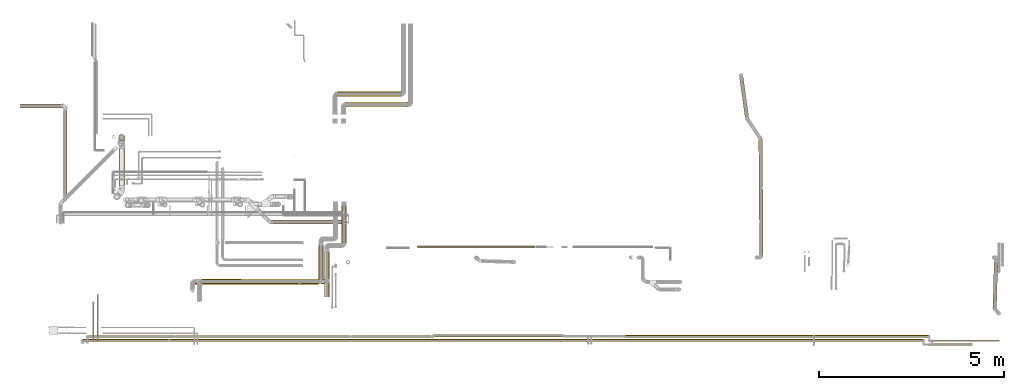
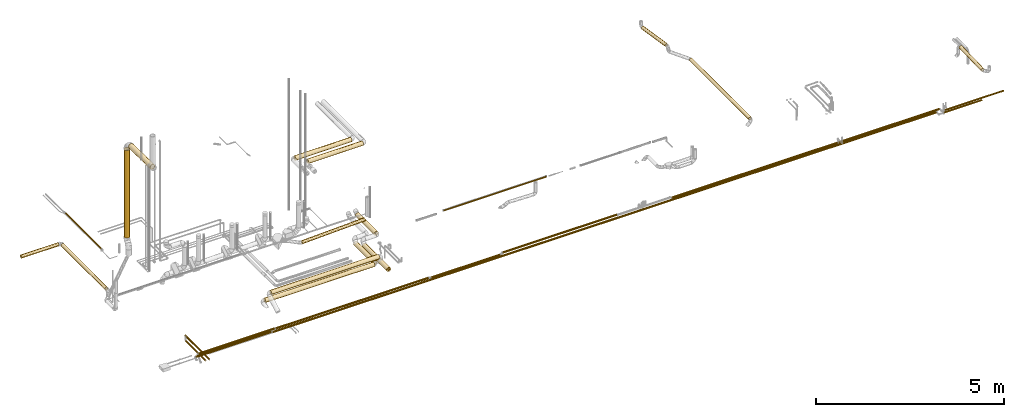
# One storey, part 1 of 156: 29 coverings.
"""IFC2X3 building model written with IfcOpenShell, lengths in millimetres."""

from ifc_helpers import new_model, entity, si_unit, converted_unit, derived_unit, direction, frame, origin_with_axes, origin_2d_with_axis, place, context, subcontext, project, spatial, hollow_circle, extrude, source, transform, mapped, element, save


model = new_model("IFC2X3")

# Units and contexts
model_context = context("Model", 3, precision=0.01, world=frame((0.0, 4.29681676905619e-09, 0.0)), true_north=direction((4.01073788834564e-13, 1.0)))
plan_context = context("Plan", 3, precision=0.01, world=frame((0.0, 4.29681676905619e-09, 0.0)), true_north=direction((4.01073788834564e-13, 1.0)))
body_context = subcontext(model_context, "Body", "Model", "MODEL_VIEW")
ifc_project = project(units=[converted_unit("PLANEANGLEUNIT", "DEGREE", entity("IfcPositiveLengthMeasure", 0.0174532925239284), si_unit("PLANEANGLEUNIT", "RADIAN"), dimensions=[0, 0, 0, 0, 0, 0, 0]), si_unit("AREAUNIT", "SQUARE_METRE"), si_unit("LENGTHUNIT", "METRE", prefix="MILLI"), si_unit("MASSUNIT", "GRAM", prefix="KILO"), si_unit("POWERUNIT", "WATT"), si_unit("PRESSUREUNIT", "PASCAL", prefix="KILO"), si_unit("FORCEUNIT", "NEWTON", prefix="KILO"), si_unit("ELECTRICVOLTAGEUNIT", "VOLT"), si_unit("ELECTRICCURRENTUNIT", "AMPERE"), si_unit("THERMODYNAMICTEMPERATUREUNIT", "DEGREE_CELSIUS"), si_unit("TIMEUNIT", "SECOND"), si_unit("VOLUMEUNIT", "CUBIC_METRE"), derived_unit("LINEARVELOCITYUNIT", [(si_unit("LENGTHUNIT", "METRE"), 1), (si_unit("TIMEUNIT", "SECOND"), -1)]), derived_unit("VOLUMETRICFLOWRATEUNIT", [(si_unit("VOLUMEUNIT", "CUBIC_METRE"), 1), (si_unit("TIMEUNIT", "SECOND"), -1)]), derived_unit("THERMALTRANSMITTANCEUNIT", [(si_unit("POWERUNIT", "WATT"), 1), (si_unit("THERMODYNAMICTEMPERATUREUNIT", "KELVIN"), -1), (si_unit("AREAUNIT", "SQUARE_METRE"), -1)]), derived_unit("SOUNDPRESSUREUNIT", [(si_unit("PRESSUREUNIT", "PASCAL"), 1)])], contexts=[model_context, plan_context])

# Site, building, storey
site_placement = place(None, frame((0.0, -4.29681676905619e-09, 0.0), z_axis=(0.0, 0.0, 1.0), x_axis=(1.0, 0.0, 0.0)))
site = spatial("IfcSite", under=ifc_project, at=site_placement, CompositionType="ELEMENT")
building_placement = place(site_placement, frame((0.0, 4.29681676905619e-09, 0.0), z_axis=(0.0, 0.0, 1.0), x_axis=(1.0, 0.0, 0.0)))
building = spatial("IfcBuilding", under=site, at=building_placement, Name="mc-building", CompositionType="ELEMENT")
storey_placement = place(building_placement, frame((0.0, 0.0, 205200.0), z_axis=(0.0, 0.0, 1.0), x_axis=(1.0, 0.0, 0.0)))
storey = spatial("IfcBuildingStorey", under=building, at=storey_placement, Name="Nivå D + 1,2 m", CompositionType="ELEMENT", Elevation=205200.0)

# Coverings
shared_shape_1 = source(origin_with_axes(), body_context, "Body", "SweptSolid", [
    extrude(hollow_circle(Radius=80.5, WallThickness=13.0, at=origin_2d_with_axis()), frame((0.0, 0.0, 0.0), z_axis=(1.0, 0.0, 0.0), x_axis=(0.0, 1.0, 0.0)), (0.0, 0.0, 1.0), 2845.2),
])
covering_1_placement = place(storey_placement, frame((324308.57539, 464415.93402, 4450.17718), z_axis=(1.0, 0.0, 0.0), x_axis=(0.0, 0.0, 1.0)))
element("IfcCovering", 1, at=covering_1_placement, inside=storey, Name="BI17T - Cellegummi 13 mm SPV fett", PredefinedType="INSULATION", context=body_context, shape_type="MappedRepresentation", body=[
    mapped(shared_shape_1, transform((0.0, 0.0, 0.0), scale=1.0)),
])
shared_shape_2 = source(origin_with_axes(), body_context, "Body", "SweptSolid", [
    extrude(hollow_circle(Radius=80.5, WallThickness=13.0, at=origin_2d_with_axis()), frame((0.0, 0.0, 0.0), z_axis=(1.0, 0.0, 0.0), x_axis=(0.0, 1.0, 0.0)), (0.0, 0.0, 1.0), 1140.2),
])
covering_2_placement = place(storey_placement, frame((324308.8595, 464192.9297, 7520.86944000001), z_axis=(0.62225385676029, -0.0130449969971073, -0.782706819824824), x_axis=(-9.78786566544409e-08, -0.999861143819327, 0.016664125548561)))
element("IfcCovering", 2, at=covering_2_placement, inside=storey, Name="BI17T - Cellegummi 13 mm SPV fett", PredefinedType="INSULATION", context=body_context, shape_type="MappedRepresentation", body=[
    mapped(shared_shape_2, transform((0.0, 0.0, 0.0), scale=1.0)),
])
shared_shape_3 = source(origin_with_axes(), body_context, "Body", "SweptSolid", [
    extrude(hollow_circle(Radius=67.5, WallThickness=35.0, at=origin_2d_with_axis()), frame((0.0, 0.0, 0.0), z_axis=(1.0, 0.0, 0.0), x_axis=(0.0, 1.0, 0.0)), (0.0, 0.0, 1.0), 3350.0),
])
covering_3_placement = place(storey_placement, frame((326282.42979, 460512.28647, 4048.81464), z_axis=(0.0, 0.927183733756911, 0.37460689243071), x_axis=(1.0, 0.0, 0.0)))
element("IfcCovering", 3, at=covering_3_placement, inside=storey, Name="BI10T - Cellegummi 18-32 mm kalde rør", PredefinedType="INSULATION", context=body_context, shape_type="MappedRepresentation", body=[
    mapped(shared_shape_3, transform((0.0, 0.0, 0.0), scale=1.0)),
])
shared_shape_4 = source(origin_with_axes(), body_context, "Body", "SweptSolid", [
    extrude(hollow_circle(Radius=50.5, WallThickness=13.0, at=origin_2d_with_axis()), frame((0.0, 0.0, 0.0), z_axis=(1.0, 0.0, 0.0), x_axis=(0.0, 1.0, 0.0)), (0.0, 0.0, 1.0), 1929.7),
])
covering_4_placement = place(storey_placement, frame((330284.94206, 462127.62223, 4301.94622000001), z_axis=(-0.0374270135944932, 1.0000003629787e-06, 0.999299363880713), x_axis=(-0.999299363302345, 3.40000123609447e-05, -0.0374270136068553)))
element("IfcCovering", 4, at=covering_4_placement, inside=storey, Name="BI17T - Cellegummi 13 mm SPV fett", PredefinedType="INSULATION", context=body_context, shape_type="MappedRepresentation", body=[
    mapped(shared_shape_4, transform((0.0, 0.0, 0.0), scale=1.0)),
])
shared_shape_5 = source(origin_with_axes(), body_context, "Body", "SweptSolid", [
    extrude(hollow_circle(Radius=67.5, WallThickness=35.0, at=origin_2d_with_axis()), frame((0.0, 0.0, 0.0), z_axis=(1.0, 0.0, 0.0), x_axis=(0.0, 1.0, 0.0)), (0.0, 0.0, 1.0), 1313.3),
])
covering_5_placement = place(storey_placement, frame((329857.40749, 461412.29785, 4053.20000000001), z_axis=(0.0, 0.0, 1.0), x_axis=(0.0, -1.0, 0.0)))
element("IfcCovering", 5, at=covering_5_placement, inside=storey, Name="BI10T - Cellegummi 18-32 mm kalde rør", PredefinedType="INSULATION", context=body_context, shape_type="MappedRepresentation", body=[
    mapped(shared_shape_5, transform((0.0, 0.0, 0.0), scale=1.0)),
])
shared_shape_6 = source(origin_with_axes(), body_context, "Body", "SweptSolid", [
    extrude(hollow_circle(Radius=67.5, WallThickness=35.0, at=origin_2d_with_axis()), frame((0.0, 0.0, 0.0), z_axis=(1.0, 0.0, 0.0), x_axis=(0.0, 1.0, 0.0)), (0.0, 0.0, 1.0), 1000.6),
])
covering_6_placement = place(storey_placement, frame((330320.17937, 461563.84313, 4172.95997999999), z_axis=(0.0, 0.0, 1.0), x_axis=(0.000105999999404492, 0.999999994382, 0.0)))
element("IfcCovering", 6, at=covering_6_placement, inside=storey, Name="BI10T - Cellegummi 18-32 mm kalde rør", PredefinedType="INSULATION", context=body_context, shape_type="MappedRepresentation", body=[
    mapped(shared_shape_6, transform((0.0, 0.0, 0.0), scale=1.0)),
])
shared_shape_7 = source(origin_with_axes(), body_context, "Body", "SweptSolid", [
    extrude(hollow_circle(Radius=67.5, WallThickness=35.0, at=origin_2d_with_axis()), frame((0.0, 0.0, 0.0), z_axis=(1.0, 0.0, 0.0), x_axis=(0.0, 1.0, 0.0)), (0.0, 0.0, 1.0), 1725.0),
])
covering_7_placement = place(storey_placement, frame((330145.28647, 465599.02233, 4231.88427000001), z_axis=(0.0, 1.0, 0.0), x_axis=(1.0, 0.0, 0.0)))
element("IfcCovering", 7, at=covering_7_placement, inside=storey, Name="BI10T - Cellegummi 18-32 mm kalde rør", PredefinedType="INSULATION", context=body_context, shape_type="MappedRepresentation", body=[
    mapped(shared_shape_7, transform((0.0, 0.0, 0.0), scale=1.0)),
])
shared_shape_8 = source(origin_with_axes(), body_context, "Body", "SweptSolid", [
    extrude(hollow_circle(Radius=67.5, WallThickness=35.0, at=origin_2d_with_axis()), frame((0.0, 0.0, 0.0), z_axis=(1.0, 0.0, 0.0), x_axis=(0.0, 1.0, 0.0)), (0.0, 0.0, 1.0), 1684.8),
])
covering_8_placement = place(storey_placement, frame((330370.5089, 465309.02232, 4224.21987), z_axis=(0.0, 1.0, 0.0), x_axis=(1.0, 0.0, 0.0)))
element("IfcCovering", 8, at=covering_8_placement, inside=storey, Name="BI10T - Cellegummi 18-32 mm kalde rør", PredefinedType="INSULATION", context=body_context, shape_type="MappedRepresentation", body=[
    mapped(shared_shape_8, transform((0.0, 0.0, 0.0), scale=1.0)),
])
shared_shape_9 = source(origin_with_axes(), body_context, "Body", "SweptSolid", [
    extrude(hollow_circle(Radius=50.5, WallThickness=13.0, at=origin_2d_with_axis()), frame((0.0, 0.0, 0.0), z_axis=(1.0, 0.0, 0.0), x_axis=(0.0, 1.0, 0.0)), (0.0, 0.0, 1.0), 1221.9),
])
covering_9_placement = place(storey_placement, frame((347961.27592, 461037.20708, 4362.41381999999), z_axis=(0.000314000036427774, 0.0119860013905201, 0.999928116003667), x_axis=(-0.0261559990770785, -0.999585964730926, 0.0119901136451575)))
element("IfcCovering", 9, at=covering_9_placement, inside=storey, Name="BI17T - Cellegummi 13 mm SPV fett", PredefinedType="INSULATION", context=body_context, shape_type="MappedRepresentation", body=[
    mapped(shared_shape_9, transform((0.0, 0.0, 0.0), scale=1.0)),
])
shared_shape_10 = source(origin_with_axes(), body_context, "Body", "SweptSolid", [
    extrude(hollow_circle(Radius=50.5, WallThickness=13.0, at=origin_2d_with_axis()), frame((0.0, 0.0, 0.0), z_axis=(1.0, 0.0, 0.0), x_axis=(0.0, 1.0, 0.0)), (0.0, 0.0, 1.0), 3110.5),
])
covering_10_placement = place(storey_placement, frame((341614.10206, 461243.36555, 4140.62007), z_axis=(-0.707994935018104, 0.00327099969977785, -0.706209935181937), x_axis=(-0.00728713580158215, 0.999902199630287, 0.0119368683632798)))
element("IfcCovering", 10, at=covering_10_placement, inside=storey, Name="BI17T - Cellegummi 13 mm SPV fett", PredefinedType="INSULATION", context=body_context, shape_type="MappedRepresentation", body=[
    mapped(shared_shape_10, transform((0.0, 0.0, 0.0), scale=1.0)),
])
shared_shape_11 = source(origin_with_axes(), body_context, "Body", "SweptSolid", [
    extrude(hollow_circle(Radius=50.5, WallThickness=13.0, at=origin_2d_with_axis()), frame((0.0, 0.0, 0.0), z_axis=(1.0, 0.0, 0.0), x_axis=(0.0, 1.0, 0.0)), (0.0, 0.0, 1.0), 1020.9),
])
covering_11_placement = place(storey_placement, frame((341218.01812, 465008.42896, 4382.15203999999), z_axis=(0.0, 0.0, 1.0), x_axis=(-0.139173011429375, 0.990268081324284, 0.0)))
element("IfcCovering", 11, at=covering_11_placement, inside=storey, Name="BI17T - Cellegummi 13 mm SPV fett", PredefinedType="INSULATION", context=body_context, shape_type="MappedRepresentation", body=[
    mapped(shared_shape_11, transform((0.0, 0.0, 0.0), scale=1.0)),
])
shared_shape_12 = source(origin_with_axes(), body_context, "Body", "SweptSolid", [
    extrude(hollow_circle(Radius=25.0, WallThickness=20.0, at=origin_2d_with_axis()), frame((0.0, 0.0, 0.0), z_axis=(1.0, 0.0, 0.0), x_axis=(0.0, 1.0, 0.0)), (0.0, 0.0, 1.0), 1290.7),
])
covering_12_placement = place(storey_placement, frame((323655.0, 460180.97171, 4035.79999999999), z_axis=(0.0, 0.0, 1.0), x_axis=(0.0, -1.0, 0.0)))
element("IfcCovering", 12, at=covering_12_placement, inside=storey, Name="BI10T - Cellegummi 18-32 mm kalde rør", PredefinedType="INSULATION", context=body_context, shape_type="MappedRepresentation", body=[
    mapped(shared_shape_12, transform((0.0, 0.0, 0.0), scale=1.0)),
])
shared_shape_13 = source(origin_with_axes(), body_context, "Body", "SweptSolid", [
    extrude(hollow_circle(Radius=25.0, WallThickness=20.0, at=origin_2d_with_axis()), frame((0.0, 0.0, 0.0), z_axis=(1.0, 0.0, 0.0), x_axis=(0.0, 1.0, 0.0)), (0.0, 0.0, 1.0), 1049.8),
])
covering_13_placement = place(storey_placement, frame((323535.0, 459937.49509, 4045.79999999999), z_axis=(0.0, 0.0, 1.0), x_axis=(0.0, -1.0, 0.0)))
element("IfcCovering", 13, at=covering_13_placement, inside=storey, Name="BI10T - Cellegummi 18-32 mm kalde rør", PredefinedType="INSULATION", context=body_context, shape_type="MappedRepresentation", body=[
    mapped(shared_shape_13, transform((0.0, 0.0, 0.0), scale=1.0)),
])
shared_shape_14 = source(origin_with_axes(), body_context, "Body", "SweptSolid", [
    extrude(hollow_circle(Radius=30.0, WallThickness=25.0, at=origin_2d_with_axis()), frame((0.0, 0.0, 0.0), z_axis=(1.0, 0.0, 0.0), x_axis=(0.0, 1.0, 0.0)), (0.0, 0.0, 1.0), 20387.0),
])
covering_14_placement = place(storey_placement, frame((325608.02776, 458928.61963, 4216.68835000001), z_axis=(0.0, 0.0, 1.0), x_axis=(1.0, 0.0, 0.0)))
element("IfcCovering", 14, at=covering_14_placement, inside=storey, Name="BI10T - Cellegummi 18-32 mm kalde rør", PredefinedType="INSULATION", context=body_context, shape_type="MappedRepresentation", body=[
    mapped(shared_shape_14, transform((0.0, 0.0, 0.0), scale=1.0)),
])
shared_shape_15 = source(origin_with_axes(), body_context, "Body", "SweptSolid", [
    extrude(hollow_circle(Radius=30.0, WallThickness=25.0, at=origin_2d_with_axis()), frame((0.0, 0.0, 0.0), z_axis=(1.0, 0.0, 0.0), x_axis=(0.0, 1.0, 0.0)), (0.0, 0.0, 1.0), 2317.0),
])
covering_15_placement = place(storey_placement, frame((323255.0, 458928.61963, 4236.68835000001), z_axis=(0.0, 0.0, 1.0), x_axis=(1.0, 0.0, 0.0)))
element("IfcCovering", 15, at=covering_15_placement, inside=storey, Name="BI10T - Cellegummi 18-32 mm kalde rør", PredefinedType="INSULATION", context=body_context, shape_type="MappedRepresentation", body=[
    mapped(shared_shape_15, transform((0.0, 0.0, 0.0), scale=1.0)),
])
shared_shape_16 = source(origin_with_axes(), body_context, "Body", "SweptSolid", [
    extrude(hollow_circle(Radius=30.0, WallThickness=25.0, at=origin_2d_with_axis()), frame((0.0, 0.0, 0.0), z_axis=(1.0, 0.0, 0.0), x_axis=(0.0, 1.0, 0.0)), (0.0, 0.0, 1.0), 3096.6),
])
covering_16_placement = place(storey_placement, frame((343050.9464, 459036.28651, 4203.32044000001), z_axis=(0.0, 0.0, 1.0), x_axis=(1.0, 0.0, 0.0)))
element("IfcCovering", 16, at=covering_16_placement, inside=storey, Name="BI10T - Cellegummi 18-32 mm kalde rør", PredefinedType="INSULATION", context=body_context, shape_type="MappedRepresentation", body=[
    mapped(shared_shape_16, transform((0.0, 0.0, 0.0), scale=1.0)),
])
shared_shape_17 = source(origin_with_axes(), body_context, "Body", "SweptSolid", [
    extrude(hollow_circle(Radius=30.0, WallThickness=25.0, at=origin_2d_with_axis()), frame((0.0, 0.0, 0.0), z_axis=(1.0, 0.0, 0.0), x_axis=(0.0, 1.0, 0.0)), (0.0, 0.0, 1.0), 2338.8),
])
covering_17_placement = place(storey_placement, frame((323387.5, 459031.28638, 4228.32044000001), z_axis=(0.0, 0.0, 1.0), x_axis=(1.0, 0.0, 0.0)))
element("IfcCovering", 17, at=covering_17_placement, inside=storey, Name="BI10T - Cellegummi 18-32 mm kalde rør", PredefinedType="INSULATION", context=body_context, shape_type="MappedRepresentation", body=[
    mapped(shared_shape_17, transform((0.0, 0.0, 0.0), scale=1.0)),
])
shared_shape_18 = source(origin_with_axes(), body_context, "Body", "SweptSolid", [
    extrude(hollow_circle(Radius=30.0, WallThickness=25.0, at=origin_2d_with_axis()), frame((0.0, 0.0, 0.0), z_axis=(1.0, 0.0, 0.0), x_axis=(0.0, 1.0, 0.0)), (0.0, 0.0, 1.0), 4687.5),
])
covering_18_placement = place(storey_placement, frame((325768.73106, 459031.28638, 4218.32044000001), z_axis=(0.0, 0.0, 1.0), x_axis=(1.0, 0.0, 0.0)))
element("IfcCovering", 18, at=covering_18_placement, inside=storey, Name="BI10T - Cellegummi 18-32 mm kalde rør", PredefinedType="INSULATION", context=body_context, shape_type="MappedRepresentation", body=[
    mapped(shared_shape_18, transform((0.0, 0.0, 0.0), scale=1.0)),
])
shared_shape_19 = source(origin_with_axes(), body_context, "Body", "SweptSolid", [
    extrude(hollow_circle(Radius=30.0, WallThickness=25.0, at=origin_2d_with_axis()), frame((0.0, 0.0, 0.0), z_axis=(1.0, 0.0, 0.0), x_axis=(0.0, 1.0, 0.0)), (0.0, 0.0, 1.0), 2117.0),
])
covering_19_placement = place(storey_placement, frame((330538.73106, 459031.28638, 4198.32044000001), z_axis=(0.0, 0.0, 1.0), x_axis=(1.0, 0.0, 0.0)))
element("IfcCovering", 19, at=covering_19_placement, inside=storey, Name="BI10T - Cellegummi 18-32 mm kalde rør", PredefinedType="INSULATION", context=body_context, shape_type="MappedRepresentation", body=[
    mapped(shared_shape_19, transform((0.0, 0.0, 0.0), scale=1.0)),
])
shared_shape_20 = source(origin_with_axes(), body_context, "Body", "SweptSolid", [
    extrude(hollow_circle(Radius=30.0, WallThickness=25.0, at=origin_2d_with_axis()), frame((0.0, 0.0, 0.0), z_axis=(1.0, 0.0, 0.0), x_axis=(0.0, 1.0, 0.0)), (0.0, 0.0, 1.0), 3512.2),
])
covering_20_placement = place(storey_placement, frame((332742.00897, 459051.28638, 4228.32044000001), z_axis=(0.0, 0.0, 1.0), x_axis=(1.0, 0.0, 0.0)))
element("IfcCovering", 20, at=covering_20_placement, inside=storey, Name="BI10T - Cellegummi 18-32 mm kalde rør", PredefinedType="INSULATION", context=body_context, shape_type="MappedRepresentation", body=[
    mapped(shared_shape_20, transform((0.0, 0.0, 0.0), scale=1.0)),
])
shared_shape_21 = source(origin_with_axes(), body_context, "Body", "SweptSolid", [
    extrude(hollow_circle(Radius=30.0, WallThickness=25.0, at=origin_2d_with_axis()), frame((0.0, 0.0, 0.0), z_axis=(1.0, 0.0, 0.0), x_axis=(0.0, 1.0, 0.0)), (0.0, 0.0, 1.0), 5081.9),
])
covering_21_placement = place(storey_placement, frame((337934.66609, 459036.28638, 4203.32044000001), z_axis=(0.0, 0.0, 1.0), x_axis=(1.0, 0.0, 0.0)))
element("IfcCovering", 21, at=covering_21_placement, inside=storey, Name="BI10T - Cellegummi 18-32 mm kalde rør", PredefinedType="INSULATION", context=body_context, shape_type="MappedRepresentation", body=[
    mapped(shared_shape_21, transform((0.0, 0.0, 0.0), scale=1.0)),
])
shared_shape_22 = source(origin_with_axes(), body_context, "Body", "SweptSolid", [
    extrude(hollow_circle(Radius=25.0, WallThickness=20.0, at=origin_2d_with_axis()), frame((0.0, 0.0, 0.0), z_axis=(1.0, 0.0, 0.0), x_axis=(0.0, 1.0, 0.0)), (0.0, 0.0, 1.0), 1807.2),
])
covering_22_placement = place(storey_placement, frame((346245.26078, 458918.61963, 4203.32044000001), z_axis=(0.0, 0.0, 1.0), x_axis=(1.0, 0.0, 0.0)))
element("IfcCovering", 22, at=covering_22_placement, inside=storey, Name="BI10T - Cellegummi 18-32 mm kalde rør", PredefinedType="INSULATION", context=body_context, shape_type="MappedRepresentation", body=[
    mapped(shared_shape_22, transform((0.0, 0.0, 0.0), scale=1.0)),
])
shared_shape_23 = source(origin_with_axes(), body_context, "Body", "SweptSolid", [
    extrude(hollow_circle(Radius=25.0, WallThickness=20.0, at=origin_2d_with_axis()), frame((0.0, 0.0, 0.0), z_axis=(1.0, 0.0, 0.0), x_axis=(0.0, 1.0, 0.0)), (0.0, 0.0, 1.0), 1166.2),
])
covering_23_placement = place(storey_placement, frame((346158.80779, 458813.61963, 4216.68835000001), z_axis=(0.0, 0.0, 1.0), x_axis=(1.0, 0.0, 0.0)))
element("IfcCovering", 23, at=covering_23_placement, inside=storey, Name="BI10T - Cellegummi 18-32 mm kalde rør", PredefinedType="INSULATION", context=body_context, shape_type="MappedRepresentation", body=[
    mapped(shared_shape_23, transform((0.0, 0.0, 0.0), scale=1.0)),
])
shared_shape_24 = source(origin_with_axes(), body_context, "Body", "SweptSolid", [
    extrude(hollow_circle(Radius=22.0, WallThickness=13.0, at=origin_2d_with_axis()), frame((0.0, 0.0, 0.0), z_axis=(1.0, 0.0, 0.0), x_axis=(0.0, 1.0, 0.0)), (0.0, 0.0, 1.0), 1907.1),
])
covering_24_placement = place(storey_placement, frame((323623.87367, 466482.83718, 4190.50902999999), z_axis=(0.0, 0.0, 1.0), x_axis=(0.0, -1.0, 0.0)))
element("IfcCovering", 24, at=covering_24_placement, inside=storey, Name="BI15T - Cellegummi KV 15mm", PredefinedType="INSULATION", context=body_context, shape_type="MappedRepresentation", body=[
    mapped(shared_shape_24, transform((0.0, 0.0, 0.0), scale=1.0)),
])
shared_shape_25 = source(origin_with_axes(), body_context, "Body", "SweptSolid", [
    extrude(hollow_circle(Radius=67.5, WallThickness=35.0, at=origin_2d_with_axis()), frame((0.0, 0.0, 0.0), z_axis=(1.0, 0.0, 0.0), x_axis=(0.0, 1.0, 0.0)), (0.0, 0.0, 1.0), 3320.1),
])
covering_25_placement = place(storey_placement, frame((326472.30618, 460519.21427, 4232.60000000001), z_axis=(0.0, 0.0, 1.0), x_axis=(0.999997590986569, 0.00219499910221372, 0.0)))
element("IfcCovering", 25, at=covering_25_placement, inside=storey, Name="BI10T - Cellegummi 18-32 mm kalde rør", PredefinedType="INSULATION", context=body_context, shape_type="MappedRepresentation", body=[
    mapped(shared_shape_25, transform((0.0, 0.0, 0.0), scale=1.0)),
])
shared_shape_26 = source(origin_with_axes(), body_context, "Body", "SweptSolid", [
    extrude(hollow_circle(Radius=50.5, WallThickness=13.0, at=origin_2d_with_axis()), frame((0.0, 0.0, 0.0), z_axis=(1.0, 0.0, 0.0), x_axis=(0.0, 1.0, 0.0)), (0.0, 0.0, 1.0), 1143.5),
])
covering_26_placement = place(storey_placement, frame((322695.89789, 465271.95442, 4241.60741), z_axis=(-0.000368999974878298, 0.0, 0.999999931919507), x_axis=(-0.999999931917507, -1.99999987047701e-06, -0.00036899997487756)))
element("IfcCovering", 26, at=covering_26_placement, inside=storey, Name="BI17T - Cellegummi 13 mm SPV fett", PredefinedType="INSULATION", context=body_context, shape_type="MappedRepresentation", body=[
    mapped(shared_shape_26, transform((0.0, 0.0, 0.0), scale=1.0)),
])
shared_shape_27 = source(origin_with_axes(), body_context, "Body", "SweptSolid", [
    extrude(hollow_circle(Radius=50.5, WallThickness=13.0, at=origin_2d_with_axis()), frame((0.0, 0.0, 0.0), z_axis=(1.0, 0.0, 0.0), x_axis=(0.0, 1.0, 0.0)), (0.0, 0.0, 1.0), 2347.1),
])
covering_27_placement = place(storey_placement, frame((322778.39808, 465189.45462, 4241.63939), z_axis=(0.0, 0.0, 1.0), x_axis=(0.0, -1.0, 0.0)))
element("IfcCovering", 27, at=covering_27_placement, inside=storey, Name="BI17T - Cellegummi 13 mm SPV fett", PredefinedType="INSULATION", context=body_context, shape_type="MappedRepresentation", body=[
    mapped(shared_shape_27, transform((0.0, 0.0, 0.0), scale=1.0)),
])
shared_shape_28 = source(origin_with_axes(), body_context, "Body", "SweptSolid", [
    extrude(hollow_circle(Radius=67.5, WallThickness=35.0, at=origin_2d_with_axis()), frame((0.0, 0.0, 0.0), z_axis=(1.0, 0.0, 0.0), x_axis=(0.0, 1.0, 0.0)), (0.0, 0.0, 1.0), 1038.4),
])
covering_28_placement = place(storey_placement, frame((329697.43013, 461587.43978, 4053.22602), z_axis=(0.0, 0.0, 1.0), x_axis=(0.0, -1.0, 0.0)))
element("IfcCovering", 28, at=covering_28_placement, inside=storey, Name="BI10T - Cellegummi 18-32 mm kalde rør", PredefinedType="INSULATION", context=body_context, shape_type="MappedRepresentation", body=[
    mapped(shared_shape_28, transform((0.0, 0.0, 0.0), scale=1.0)),
])
shared_shape_29 = source(origin_with_axes(), body_context, "Body", "SweptSolid", [
    extrude(hollow_circle(Radius=21.0, WallThickness=15.0, at=origin_2d_with_axis()), frame((0.0, 0.0, 0.0), z_axis=(1.0, 0.0, 0.0), x_axis=(0.0, 1.0, 0.0)), (0.0, 0.0, 1.0), 3148.5),
])
covering_29_placement = place(storey_placement, frame((332328.42789, 461458.25941, 4275.67687), z_axis=(0.0, 0.0, 1.0), x_axis=(1.0, 0.0, 0.0)))
element("IfcCovering", 29, at=covering_29_placement, inside=storey, Name="BI10T - Cellegummi 18-32 mm kalde rør", PredefinedType="INSULATION", context=body_context, shape_type="MappedRepresentation", body=[
    mapped(shared_shape_29, transform((0.0, 0.0, 0.0), scale=1.0)),
])

save(model, "model.ifc")
